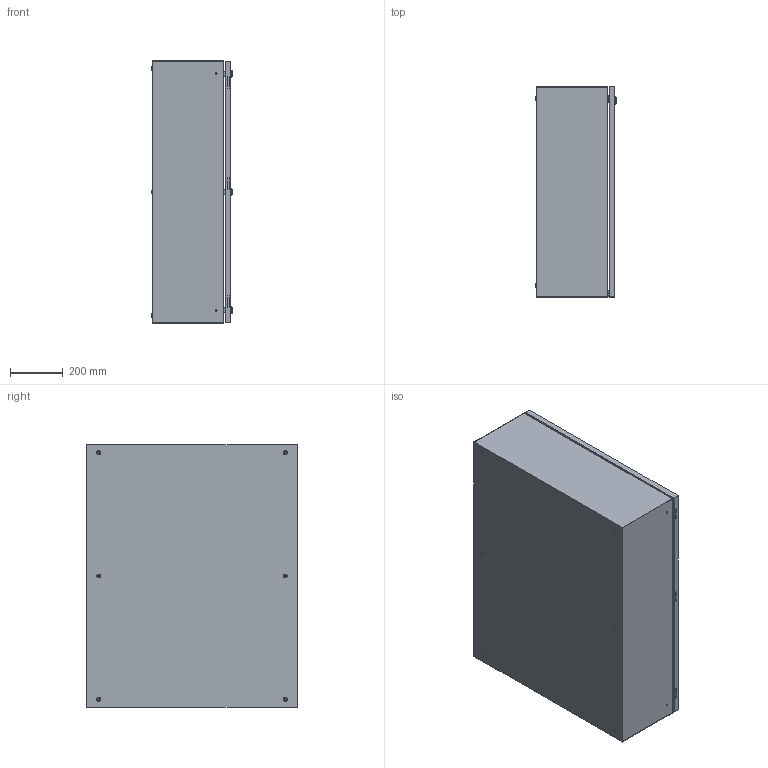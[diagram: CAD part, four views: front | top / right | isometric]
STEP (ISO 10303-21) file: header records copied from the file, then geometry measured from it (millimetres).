
FILE_DESCRIPTION(/* description */ ('Unknown'),/* implementation_level */ '2;1');
FILE_NAME(/* name */ 'CLA08010030',/* time_stamp */ '2024-09-03T15:07:44+02:00',/* author */ ('Unknown'),/* organization */ ('Unknown'),/* preprocessor_version */ 'ST-DEVELOPER v19.4',/* originating_system */ 'Solid Edge',/* authorisation */ 'Unknown');
FILE_SCHEMA (('AUTOMOTIVE_DESIGN {1 0 10303 214 3 1 1}'));
Length unit declared in the file: millimetre
Products named in the file (16): CLA08010030; C000X000.86_oa_0; C000X000.87_oa_1; C0000000.68; C0000000.81; AE00417.01; C0000000.02; AE00989.09; C000X000.57_oa_2; C0000000.43; C0000000.04; C0000000.05; AE00316.01; AE00601.01; AE00891.02; C0000000.01
Assembly tree (42 placements, depth 4):
  CLA08010030
    C000X000.86_oa_0
      C000X000.87_oa_1
        C0000000.68
        C0000000.81
        AE00417.01  x2
      C0000000.02  x3
      AE00989.09  x3
    C000X000.57_oa_2
      C0000000.43
      C0000000.04  x6
      C0000000.05  x6
      AE00316.01  x3
      AE00601.01  x3
      AE00891.02  x3
      C0000000.01  x3
      AE00417.01  x4
Bounding box: 305 x 800 x 1000 mm (x, y, z)
Volume: 6714434 mm3; surface area: 5617301 mm2
Topology: 42 solids, 42 shells, 891 faces, 2199 edges, 1430 vertices
Faces by surface type: plane 570, cylinder 234, cone 45, torus 42
Full cylindrical faces by diameter (mm): 4 x3, 4.917 x9, 4.918 x3, 5.4 x3, 6 x12, 6.4 x3, 7.5 x6, 8 x6, 8.376 x12, 10 x9, 10.25 x6, 11 x3, 13.6 x3, 14 x6, 15 x6, 16 x6, 16.3 x3, 19.5 x3, 28 x3
Entity records: 12214 total; most frequent: CARTESIAN_POINT 1889, DIRECTION 1844, ORIENTED_EDGE 1694, EDGE_CURVE 847, AXIS2_PLACEMENT_3D 619, LINE 606, VECTOR 606, VERTEX_POINT 579
